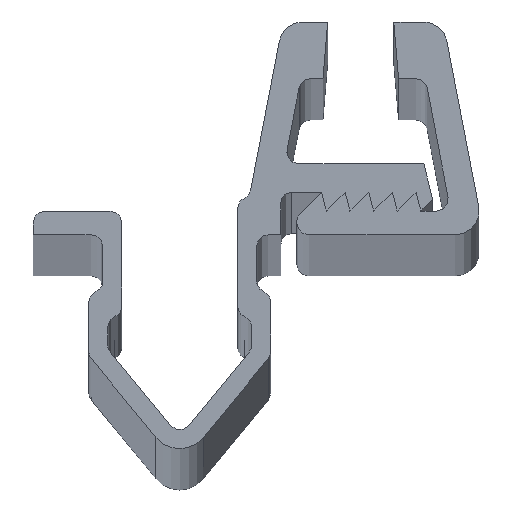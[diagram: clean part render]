
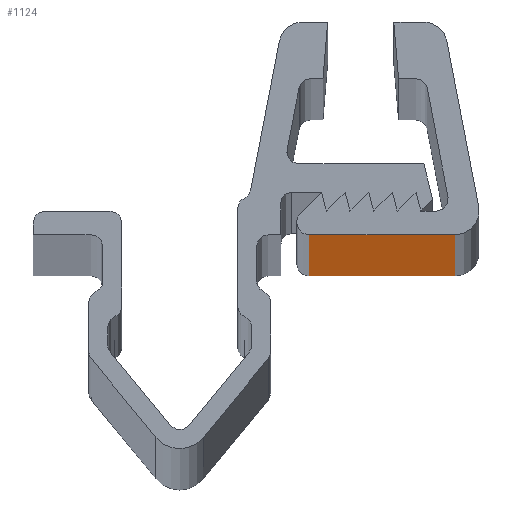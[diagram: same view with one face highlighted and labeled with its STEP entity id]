
A CAD part, top view. The second image highlights one B-rep face of the part: STEP entity #1124.
In plain terms, the highlighted planar face has unit normal (0, -1, 0).
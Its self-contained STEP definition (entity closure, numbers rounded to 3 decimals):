
#141 = VERTEX_POINT ( 'NONE', #1534 ) ;
#473 = PLANE ( 'NONE',  #1791 ) ;
#482 = CARTESIAN_POINT ( 'NONE',  ( 3.106, 0., 0. ) ) ;
#591 = CARTESIAN_POINT ( 'NONE',  ( 3.106, 0., 0. ) ) ;
#708 = CARTESIAN_POINT ( 'NONE',  ( 3.106, 0., 1000. ) ) ;
#720 = DIRECTION ( 'NONE',  ( 0., 1., 0. ) ) ;
#819 = ORIENTED_EDGE ( 'NONE', *, *, #1637, .F. ) ;
#853 = CARTESIAN_POINT ( 'NONE',  ( 3.106, 0., 1000. ) ) ;
#934 = VECTOR ( 'NONE', #2893, 1000. ) ;
#990 = EDGE_LOOP ( 'NONE', ( #2804, #2564, #819, #1158 ) ) ;
#1070 = CARTESIAN_POINT ( 'NONE',  ( 3.106, 0., 1000. ) ) ;
#1124 = ADVANCED_FACE ( 'NONE', ( #2950 ), #473, .F. ) ;
#1158 = ORIENTED_EDGE ( 'NONE', *, *, #1904, .T. ) ;
#1305 = LINE ( 'NONE', #591, #1873 ) ;
#1308 = VERTEX_POINT ( 'NONE', #482 ) ;
#1534 = CARTESIAN_POINT ( 'NONE',  ( -3.106, 0., 1000. ) ) ;
#1554 = LINE ( 'NONE', #1719, #934 ) ;
#1637 = EDGE_CURVE ( 'NONE', #141, #2117, #2387, .T. ) ;
#1666 = VECTOR ( 'NONE', #2484, 1000. ) ;
#1676 = VERTEX_POINT ( 'NONE', #2509 ) ;
#1719 = CARTESIAN_POINT ( 'NONE',  ( -3.106, 0., 1000. ) ) ;
#1758 = LINE ( 'NONE', #2655, #2920 ) ;
#1791 = AXIS2_PLACEMENT_3D ( 'NONE', #708, #720, #2376 ) ;
#1873 = VECTOR ( 'NONE', #2487, 1000. ) ;
#1904 = EDGE_CURVE ( 'NONE', #141, #1676, #1554, .T. ) ;
#2117 = VERTEX_POINT ( 'NONE', #853 ) ;
#2376 = DIRECTION ( 'NONE',  ( 0., 0., 1. ) ) ;
#2387 = LINE ( 'NONE', #1070, #1666 ) ;
#2435 = EDGE_CURVE ( 'NONE', #2117, #1308, #1758, .T. ) ;
#2484 = DIRECTION ( 'NONE',  ( 1., 0., 0. ) ) ;
#2487 = DIRECTION ( 'NONE',  ( 1., 0., 0. ) ) ;
#2509 = CARTESIAN_POINT ( 'NONE',  ( -3.106, 0., 0. ) ) ;
#2564 = ORIENTED_EDGE ( 'NONE', *, *, #2435, .F. ) ;
#2628 = EDGE_CURVE ( 'NONE', #1676, #1308, #1305, .T. ) ;
#2655 = CARTESIAN_POINT ( 'NONE',  ( 3.106, 0., 1000. ) ) ;
#2804 = ORIENTED_EDGE ( 'NONE', *, *, #2628, .T. ) ;
#2888 = DIRECTION ( 'NONE',  ( 0., 0., -1. ) ) ;
#2893 = DIRECTION ( 'NONE',  ( 0., 0., -1. ) ) ;
#2920 = VECTOR ( 'NONE', #2888, 1000. ) ;
#2950 = FACE_OUTER_BOUND ( 'NONE', #990, .T. ) ;
